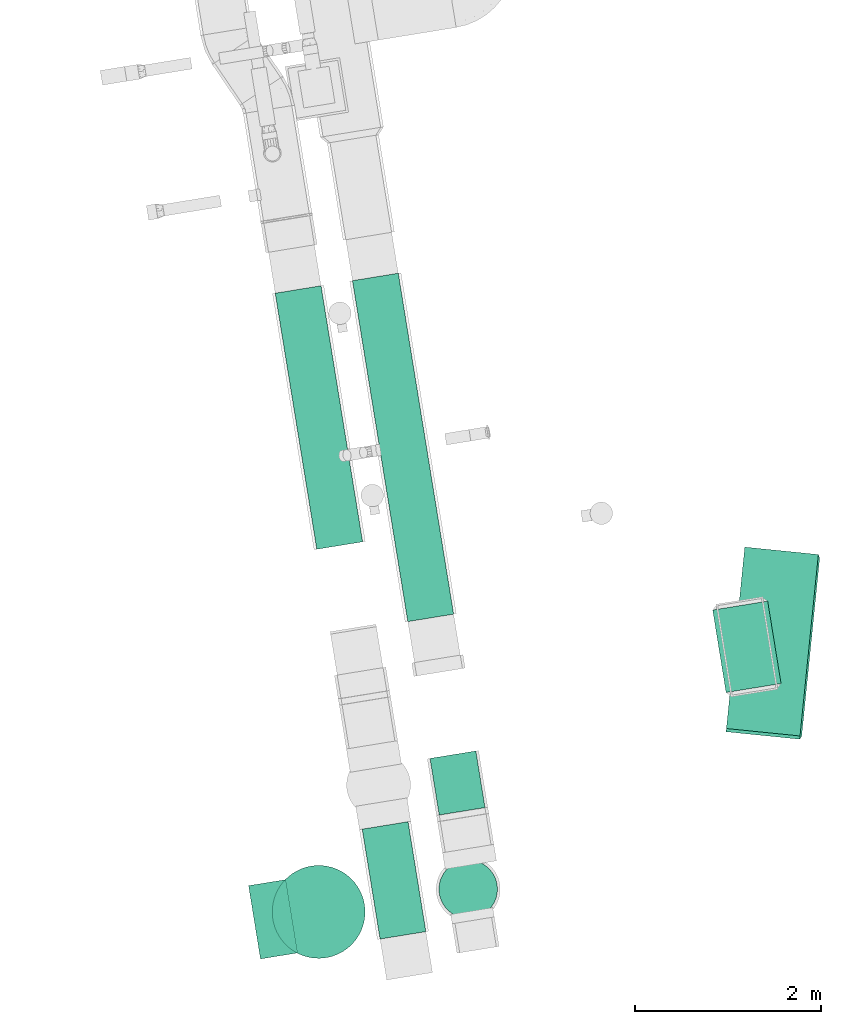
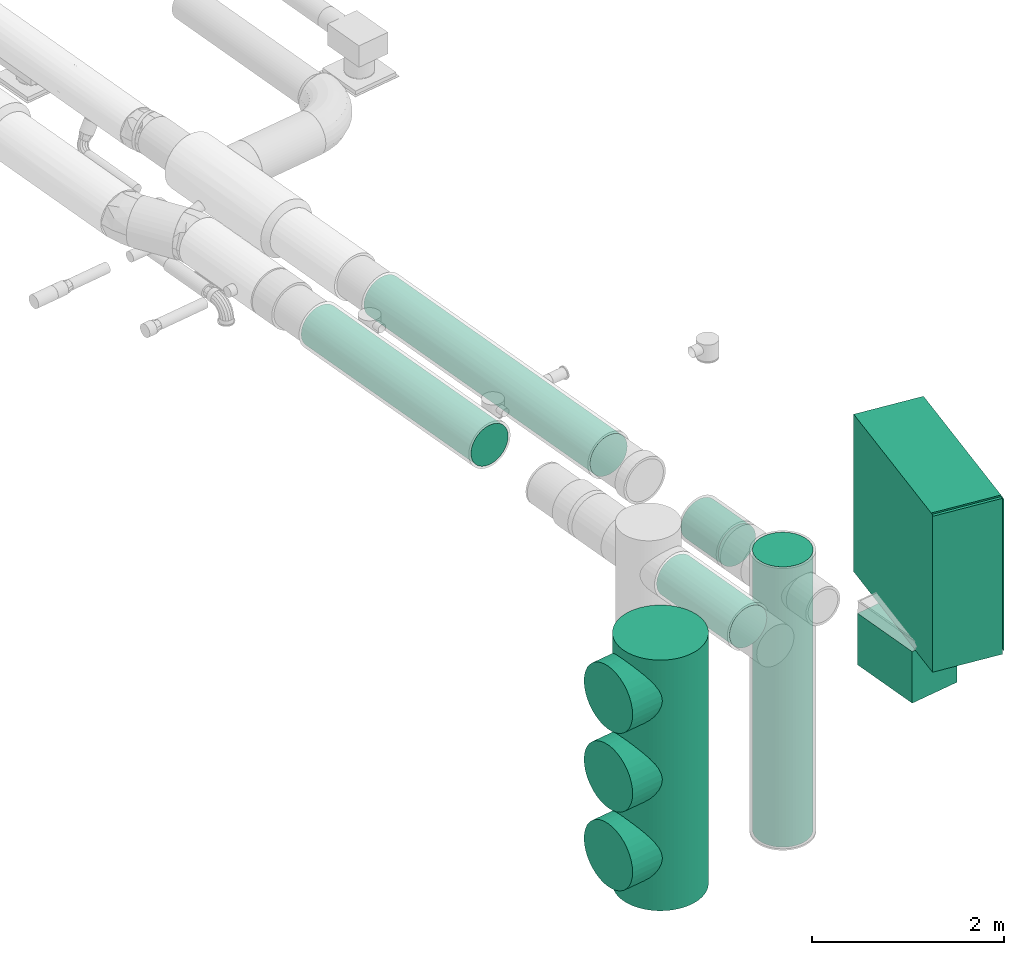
# One storey, part 12 of 39: 7 flow segments, 3 flow fittings, 1 flow terminal.
"""IFC2X3 building model written with IfcOpenShell, lengths in millimetres."""

from ifc_helpers import new_model, entity, si_unit, converted_unit, derived_unit, direction, frame, frame_2d, origin, origin_with_axes, origin_2d_with_axis, place, context, subcontext, project, spatial, polyline, rectangle, circle, outline, extrude, faceted_brep, source, transform, mapped, material, type_object, element, save


model = new_model("IFC2X3")

# Units and contexts
plan_context = context("Plan", 3, precision=1e-05, world=origin_with_axes())
model_context = context("Model", 3, precision=0.01, world=origin(), true_north=direction((6.12323399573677e-17, 1.0)))
body_context = subcontext(model_context, "Body", "Model", "MODEL_VIEW")
ifc_project = project(units=[converted_unit("PLANEANGLEUNIT", "DEGREE", entity("IfcPositiveLengthMeasure", 0.0174532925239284), si_unit("PLANEANGLEUNIT", "RADIAN"), dimensions=[0, 0, 0, 0, 0, 0, 0]), si_unit("AREAUNIT", "SQUARE_METRE"), si_unit("LENGTHUNIT", "METRE", prefix="MILLI"), si_unit("MASSUNIT", "GRAM", prefix="KILO"), si_unit("POWERUNIT", "WATT"), si_unit("PRESSUREUNIT", "PASCAL", prefix="KILO"), si_unit("FORCEUNIT", "NEWTON", prefix="KILO"), si_unit("ELECTRICVOLTAGEUNIT", "VOLT"), si_unit("ELECTRICCURRENTUNIT", "AMPERE"), si_unit("THERMODYNAMICTEMPERATUREUNIT", "DEGREE_CELSIUS"), si_unit("TIMEUNIT", "SECOND"), si_unit("VOLUMEUNIT", "CUBIC_METRE"), derived_unit("LINEARVELOCITYUNIT", [(si_unit("LENGTHUNIT", "METRE"), 1), (si_unit("TIMEUNIT", "SECOND"), -1)]), derived_unit("VOLUMETRICFLOWRATEUNIT", [(si_unit("VOLUMEUNIT", "CUBIC_METRE"), 1), (si_unit("TIMEUNIT", "SECOND"), -1)]), derived_unit("THERMALTRANSMITTANCEUNIT", [(si_unit("POWERUNIT", "WATT"), 1), (si_unit("THERMODYNAMICTEMPERATUREUNIT", "KELVIN"), -1), (si_unit("AREAUNIT", "SQUARE_METRE"), -1)]), derived_unit("SOUNDPRESSUREUNIT", [(si_unit("PRESSUREUNIT", "PASCAL"), 1)])], contexts=[model_context, plan_context])

# Site, building, storey
site_placement = place(None, frame((-0.00071070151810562, 0.00438415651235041, 0.0), z_axis=(0.0, 0.0, 1.0), x_axis=(-0.160236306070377, 0.987078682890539, 0.0)))
site = spatial("IfcSite", under=ifc_project, at=site_placement, Name="Default", CompositionType="ELEMENT")
building_placement = place(site_placement, origin_with_axes())
building = spatial("IfcBuilding", under=site, at=building_placement, CompositionType="ELEMENT")
storey_placement = place(building_placement, frame((0.0, 0.0, 58999.9999999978), z_axis=(0.0, 0.0, 1.0), x_axis=(1.0, 0.0, 0.0)))
storey = spatial("IfcBuildingStorey", under=building, at=storey_placement, Name="Nivå F", CompositionType="ELEMENT", Elevation=58999.9999999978)

# Flow fittings
ifc_material = material(Name="<Unnamed>")
duct_fitting_type_1 = type_object("IfcDuctFittingType", Name="magicirc_tapoutlet_1:magicirc_tapoutlet_001", PredefinedType="NOTDEFINED", material=ifc_material)
shared_shape_1 = source(origin(), body_context, "Body", "Brep", [
    faceted_brep([(-206.099577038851, 136.808057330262, -375.877048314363), (-206.099577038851, 69.4592710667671, -393.923101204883), (-206.099577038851, 0.0, -400.0), (-206.099577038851, -69.4592710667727, -393.923101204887), (-206.099577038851, -136.808057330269, -375.877048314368), (-206.099577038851, -200.0, -346.410161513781), (-206.099577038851, -257.115043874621, -306.417777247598), (-206.099577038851, -306.417777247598, -257.115043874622), (-206.099577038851, -346.410161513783, -200.0), (-206.099577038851, -375.877048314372, -136.808057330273), (-206.099577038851, -393.923101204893, -69.4592710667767), (-206.099577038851, -400.0, 0.0), (-206.099577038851, -393.923101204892, 69.4592710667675), (-206.099577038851, -375.877048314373, 136.808057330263), (-206.099577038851, -346.410161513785, 200.0), (-206.099577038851, -306.417777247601, 257.115043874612), (-206.099577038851, -257.115043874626, 306.417777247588), (-206.099577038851, -200.0, 346.410161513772), (-206.099577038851, -136.808057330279, 375.87704831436), (-206.099577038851, -69.4592710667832, 393.923101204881), (-206.099577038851, 0.0, 400.0), (-206.099577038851, 69.4592710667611, 393.923101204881), (-206.099577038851, 136.808057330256, 375.877048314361), (-206.099577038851, 200.0, 346.410161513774), (-206.099577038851, 257.115043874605, 306.41777724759), (-206.099577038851, 306.41777724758, 257.115043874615), (-206.099577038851, 346.410161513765, 200.0), (-206.099577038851, 375.877048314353, 136.808057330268), (-206.099577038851, 393.923101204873, 69.4592710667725), (-206.099577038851, 400.0, 0.0), (-206.099577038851, 393.923101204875, -69.4592710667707), (-206.099577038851, 375.877048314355, -136.808057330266), (-206.099577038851, 346.410161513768, -200.0), (-206.099577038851, 306.417777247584, -257.115043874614), (-206.099577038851, 257.115043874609, -306.41777724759), (-206.099577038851, 200.0, -346.410161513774), (0.0, 0.0, 400.0), (200.0, 0.0, 400.0), (200.0, 69.4592710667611, 393.923101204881), (0.0, 69.4592710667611, 393.923101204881), (0.0, 136.808057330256, 375.877048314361), (200.0, 136.808057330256, 375.877048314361), (200.0, 200.0, 346.410161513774), (0.0, 200.0, 346.410161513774), (200.0, 257.115043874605, 306.41777724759), (0.0, 257.115043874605, 306.41777724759), (200.0, 306.41777724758, 257.115043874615), (0.0, 306.41777724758, 257.115043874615), (200.0, 346.410161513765, 200.0), (0.0, 346.410161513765, 200.0), (0.0, 375.877048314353, 136.808057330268), (200.0, 375.877048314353, 136.808057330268), (200.0, 393.923101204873, 69.4592710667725), (0.0, 393.923101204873, 69.4592710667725), (200.0, 400.0, 0.0), (0.0, 400.0, 0.0), (200.0, 393.923101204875, -69.4592710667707), (0.0, 393.923101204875, -69.4592710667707), (0.0, 375.877048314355, -136.808057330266), (200.0, 375.877048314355, -136.808057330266), (200.0, 346.410161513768, -200.0), (0.0, 346.410161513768, -200.0), (200.0, 306.417777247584, -257.115043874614), (0.0, 306.417777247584, -257.115043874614), (200.0, 257.115043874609, -306.41777724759), (0.0, 257.11504387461, -306.41777724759), (200.0, 200.0, -346.410161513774), (0.0, 200.0, -346.410161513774), (0.0, 136.808057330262, -375.877048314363), (200.0, 136.808057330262, -375.877048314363), (200.0, 69.4592710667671, -393.923101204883), (0.0, 69.4592710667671, -393.923101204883), (200.0, 0.0, -400.0), (0.0, 0.0, -400.0), (200.0, -69.4592710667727, -393.923101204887), (0.0, -69.4592710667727, -393.923101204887), (0.0, -136.808057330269, -375.877048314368), (200.0, -136.808057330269, -375.877048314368), (200.0, -200.0, -346.410161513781), (0.0, -200.0, -346.410161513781), (200.0, -257.115043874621, -306.417777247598), (0.0, -257.115043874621, -306.417777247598), (200.0, -306.417777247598, -257.115043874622), (0.0, -306.417777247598, -257.115043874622), (200.0, -346.410161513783, -200.0), (0.0, -346.410161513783, -200.0), (0.0, -375.877048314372, -136.808057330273), (200.0, -375.877048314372, -136.808057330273), (200.0, -393.923101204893, -69.4592710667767), (0.0, -393.923101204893, -69.4592710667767), (200.0, -400.0, 0.0), (0.0, -400.0, 0.0), (200.0, -393.923101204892, 69.4592710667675), (0.0, -393.923101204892, 69.4592710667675), (0.0, -375.877048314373, 136.808057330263), (200.0, -375.877048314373, 136.808057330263), (200.0, -346.410161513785, 200.0), (0.0, -346.410161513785, 200.0), (200.0, -306.417777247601, 257.115043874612), (0.0, -306.417777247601, 257.115043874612), (200.0, -257.115043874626, 306.417777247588), (0.0, -257.115043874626, 306.417777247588), (200.0, -200.0, 346.410161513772), (0.0, -200.0, 346.410161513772), (0.0, -136.808057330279, 375.87704831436), (200.0, -136.808057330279, 375.87704831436), (200.0, -69.4592710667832, 393.923101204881), (0.0, -69.4592710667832, 393.923101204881)], [[[0, 1, 2, 3, 4, 5, 6, 7, 8, 9, 10, 11, 12, 13, 14, 15, 16, 17, 18, 19, 20, 21, 22, 23, 24, 25, 26, 27, 28, 29, 30, 31, 32, 33, 34, 35]], [[20, 36, 37, 38, 39, 21]], [[22, 40, 41, 42, 43, 23]], [[39, 38, 41, 40, 22, 21]], [[23, 43, 42, 44, 45, 24]], [[45, 44, 46, 47, 25, 24]], [[25, 47, 46, 48, 49, 26]], [[27, 50, 51, 52, 53, 28]], [[49, 48, 51, 50, 27, 26]], [[28, 53, 52, 54, 55, 29]], [[29, 55, 54, 56, 57, 30]], [[31, 58, 59, 60, 61, 32]], [[57, 56, 59, 58, 31, 30]], [[32, 61, 60, 62, 63, 33]], [[63, 62, 64, 65, 34, 33]], [[34, 65, 64, 66, 67, 35]], [[0, 68, 69, 70, 71, 1]], [[67, 66, 69, 68, 0, 35]], [[1, 71, 70, 72, 73, 2]], [[2, 73, 72, 74, 75, 3]], [[4, 76, 77, 78, 79, 5]], [[75, 74, 77, 76, 4, 3]], [[5, 79, 78, 80, 81, 6]], [[81, 80, 82, 83, 7, 6]], [[7, 83, 82, 84, 85, 8]], [[9, 86, 87, 88, 89, 10]], [[85, 84, 87, 86, 9, 8]], [[10, 89, 88, 90, 91, 11]], [[11, 91, 90, 92, 93, 12]], [[13, 94, 95, 96, 97, 14]], [[93, 92, 95, 94, 13, 12]], [[14, 97, 96, 98, 99, 15]], [[99, 98, 100, 101, 16, 15]], [[16, 101, 100, 102, 103, 17]], [[18, 104, 105, 106, 107, 19]], [[103, 102, 105, 104, 18, 17]], [[19, 107, 106, 37, 36, 20]], [[69, 66, 64, 62, 60, 59, 56, 54, 52, 51, 48, 46, 44, 42, 41, 38, 37, 106, 105, 102, 100, 98, 96, 95, 92, 90, 88, 87, 84, 82, 80, 78, 77, 74, 72, 70]]]),
    faceted_brep([(200.0, 136.808057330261, -375.877048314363), (200.0, 200.0, -346.410161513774), (200.0, 257.115043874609, -306.41777724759), (200.0, 306.417777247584, -257.115043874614), (200.0, 346.410161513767, -200.0), (200.0, 375.877048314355, -136.808057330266), (200.0, 393.923101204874, -69.4592710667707), (200.0, 400.0, 0.0), (200.0, 393.923101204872, 69.4592710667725), (200.0, 375.877048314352, 136.808057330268), (200.0, 346.410161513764, 200.0), (200.0, 306.41777724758, 257.115043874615), (200.0, 257.115043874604, 306.41777724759), (200.0, 200.0, 346.410161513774), (200.0, 136.808057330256, 375.877048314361), (200.0, 69.4592710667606, 393.923101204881), (200.0, 0.0, 400.0), (200.0, -69.4592710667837, 393.923101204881), (200.0, -136.808057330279, 375.87704831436), (200.0, -200.0, 346.410161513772), (200.0, -257.115043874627, 306.417777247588), (200.0, -306.417777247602, 257.115043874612), (200.0, -346.410161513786, 200.0), (200.0, -375.877048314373, 136.808057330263), (200.0, -393.923101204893, 69.4592710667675), (200.0, -400.0, 0.0), (200.0, -393.923101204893, -69.4592710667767), (200.0, -375.877048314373, -136.808057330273), (200.0, -346.410161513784, -200.0), (200.0, -306.417777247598, -257.115043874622), (200.0, -257.115043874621, -306.417777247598), (200.0, -200.0, -346.410161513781), (200.0, -136.80805733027, -375.877048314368), (200.0, -69.4592710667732, -393.923101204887), (200.0, 0.0, -400.0), (200.0, 69.4592710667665, -393.923101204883), (0.0, 0.0, 400.0), (0.0, 69.4592710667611, 393.923101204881), (-206.099577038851, 69.4592710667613, 393.923101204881), (-206.099577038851, 0.0, 400.0), (0.0, 136.808057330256, 375.877048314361), (0.0, 200.0, 346.410161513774), (-206.09957703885, 200.0, 346.410161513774), (-206.099577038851, 136.808057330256, 375.877048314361), (0.0, 257.115043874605, 306.41777724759), (-206.09957703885, 257.115043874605, 306.41777724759), (0.0, 306.41777724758, 257.115043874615), (-206.09957703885, 306.41777724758, 257.115043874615), (0.0, 346.410161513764, 200.0), (-206.09957703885, 346.410161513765, 200.0), (0.0, 375.877048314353, 136.808057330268), (0.0, 393.923101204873, 69.4592710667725), (-206.09957703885, 393.923101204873, 69.4592710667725), (-206.09957703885, 375.877048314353, 136.808057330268), (0.0, 400.0, 0.0), (-206.09957703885, 400.0, 0.0), (0.0, 393.923101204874, -69.4592710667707), (-206.09957703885, 393.923101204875, -69.4592710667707), (0.0, 375.877048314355, -136.808057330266), (0.0, 346.410161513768, -200.0), (-206.09957703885, 346.410161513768, -200.0), (-206.09957703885, 375.877048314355, -136.808057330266), (0.0, 306.417777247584, -257.115043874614), (-206.09957703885, 306.417777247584, -257.115043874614), (0.0, 257.115043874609, -306.41777724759), (-206.09957703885, 257.115043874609, -306.41777724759), (0.0, 200.0, -346.410161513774), (-206.09957703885, 200.0, -346.410161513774), (0.0, 136.808057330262, -375.877048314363), (0.0, 69.459271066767, -393.923101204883), (-206.099577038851, 69.4592710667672, -393.923101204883), (-206.099577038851, 136.808057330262, -375.877048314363), (0.0, 0.0, -400.0), (-206.099577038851, 0.0, -400.0), (0.0, -69.4592710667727, -393.923101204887), (-206.099577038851, -69.4592710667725, -393.923101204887), (0.0, -136.808057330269, -375.877048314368), (0.0, -200.0, -346.410161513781), (-206.099577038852, -200.0, -346.410161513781), (-206.099577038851, -136.808057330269, -375.877048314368), (0.0, -257.115043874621, -306.417777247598), (-206.099577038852, -257.115043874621, -306.417777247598), (0.0, -306.417777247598, -257.115043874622), (-206.099577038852, -306.417777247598, -257.115043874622), (0.0, -346.410161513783, -200.0), (-206.099577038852, -346.410161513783, -200.0), (0.0, -375.877048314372, -136.808057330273), (0.0, -393.923101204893, -69.4592710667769), (-206.099577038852, -393.923101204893, -69.4592710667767), (-206.099577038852, -375.877048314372, -136.808057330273), (0.0, -400.0, 0.0), (-206.099577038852, -400.0, 0.0), (0.0, -393.923101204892, 69.4592710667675), (-206.099577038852, -393.923101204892, 69.4592710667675), (0.0, -375.877048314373, 136.808057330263), (0.0, -346.410161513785, 200.0), (-206.099577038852, -346.410161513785, 200.0), (-206.099577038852, -375.877048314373, 136.808057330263), (0.0, -306.417777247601, 257.115043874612), (-206.099577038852, -306.417777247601, 257.115043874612), (0.0, -257.115043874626, 306.417777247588), (-206.099577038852, -257.115043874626, 306.417777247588), (0.0, -200.0, 346.410161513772), (-206.099577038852, -200.0, 346.410161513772), (0.0, -136.808057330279, 375.87704831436), (0.0, -69.4592710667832, 393.923101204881), (-206.099577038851, -69.459271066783, 393.923101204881), (-206.099577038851, -136.808057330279, 375.87704831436)], [[[0, 1, 2, 3, 4, 5, 6, 7, 8, 9, 10, 11, 12, 13, 14, 15, 16, 17, 18, 19, 20, 21, 22, 23, 24, 25, 26, 27, 28, 29, 30, 31, 32, 33, 34, 35]], [[36, 16, 15, 37, 38, 39]], [[40, 14, 13, 41, 42, 43]], [[15, 14, 40, 43, 38, 37]], [[41, 13, 12, 44, 45, 42]], [[12, 11, 46, 47, 45, 44]], [[46, 11, 10, 48, 49, 47]], [[50, 9, 8, 51, 52, 53]], [[10, 9, 50, 53, 49, 48]], [[51, 8, 7, 54, 55, 52]], [[54, 7, 6, 56, 57, 55]], [[58, 5, 4, 59, 60, 61]], [[6, 5, 58, 61, 57, 56]], [[59, 4, 3, 62, 63, 60]], [[3, 2, 64, 65, 63, 62]], [[64, 2, 1, 66, 67, 65]], [[68, 0, 35, 69, 70, 71]], [[1, 0, 68, 71, 67, 66]], [[69, 35, 34, 72, 73, 70]], [[72, 34, 33, 74, 75, 73]], [[76, 32, 31, 77, 78, 79]], [[33, 32, 76, 79, 75, 74]], [[77, 31, 30, 80, 81, 78]], [[30, 29, 82, 83, 81, 80]], [[82, 29, 28, 84, 85, 83]], [[86, 27, 26, 87, 88, 89]], [[28, 27, 86, 89, 85, 84]], [[87, 26, 25, 90, 91, 88]], [[90, 25, 24, 92, 93, 91]], [[94, 23, 22, 95, 96, 97]], [[24, 23, 94, 97, 93, 92]], [[95, 22, 21, 98, 99, 96]], [[21, 20, 100, 101, 99, 98]], [[100, 20, 19, 102, 103, 101]], [[104, 18, 17, 105, 106, 107]], [[19, 18, 104, 107, 103, 102]], [[105, 17, 16, 36, 39, 106]], [[71, 70, 73, 75, 79, 78, 81, 83, 85, 89, 88, 91, 93, 97, 96, 99, 101, 103, 107, 106, 39, 38, 43, 42, 45, 47, 49, 53, 52, 55, 57, 61, 60, 63, 65, 67]]]),
    faceted_brep([(-206.099577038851, 136.808057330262, -375.877048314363), (-206.099577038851, 69.4592710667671, -393.923101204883), (-206.099577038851, 0.0, -400.0), (-206.099577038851, -69.4592710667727, -393.923101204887), (-206.099577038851, -136.808057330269, -375.877048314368), (-206.099577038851, -200.0, -346.410161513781), (-206.099577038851, -257.115043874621, -306.417777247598), (-206.099577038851, -306.417777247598, -257.115043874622), (-206.099577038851, -346.410161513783, -200.0), (-206.099577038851, -375.877048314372, -136.808057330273), (-206.099577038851, -393.923101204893, -69.4592710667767), (-206.099577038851, -400.0, 0.0), (-206.099577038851, -393.923101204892, 69.4592710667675), (-206.099577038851, -375.877048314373, 136.808057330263), (-206.099577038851, -346.410161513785, 200.0), (-206.099577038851, -306.417777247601, 257.115043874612), (-206.099577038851, -257.115043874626, 306.417777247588), (-206.099577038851, -200.0, 346.410161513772), (-206.099577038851, -136.808057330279, 375.87704831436), (-206.099577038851, -69.4592710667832, 393.923101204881), (-206.099577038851, 0.0, 400.0), (-206.099577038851, 69.4592710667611, 393.923101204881), (-206.099577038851, 136.808057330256, 375.877048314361), (-206.099577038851, 200.0, 346.410161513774), (-206.099577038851, 257.115043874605, 306.41777724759), (-206.099577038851, 306.41777724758, 257.115043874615), (-206.099577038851, 346.410161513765, 200.0), (-206.099577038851, 375.877048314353, 136.808057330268), (-206.099577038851, 393.923101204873, 69.4592710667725), (-206.099577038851, 400.0, 0.0), (-206.099577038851, 393.923101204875, -69.4592710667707), (-206.099577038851, 375.877048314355, -136.808057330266), (-206.099577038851, 346.410161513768, -200.0), (-206.099577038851, 306.417777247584, -257.115043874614), (-206.099577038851, 257.115043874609, -306.41777724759), (-206.099577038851, 200.0, -346.410161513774), (0.0, 0.0, 400.0), (200.0, 0.0, 400.0), (200.0, 69.4592710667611, 393.923101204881), (0.0, 69.4592710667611, 393.923101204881), (0.0, 136.808057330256, 375.877048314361), (200.0, 136.808057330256, 375.877048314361), (200.0, 200.0, 346.410161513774), (0.0, 200.0, 346.410161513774), (200.0, 257.115043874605, 306.41777724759), (0.0, 257.115043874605, 306.41777724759), (200.0, 306.41777724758, 257.115043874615), (0.0, 306.41777724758, 257.115043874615), (200.0, 346.410161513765, 200.0), (0.0, 346.410161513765, 200.0), (0.0, 375.877048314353, 136.808057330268), (200.0, 375.877048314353, 136.808057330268), (200.0, 393.923101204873, 69.4592710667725), (0.0, 393.923101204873, 69.4592710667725), (200.0, 400.0, 0.0), (0.0, 400.0, 0.0), (200.0, 393.923101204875, -69.4592710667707), (0.0, 393.923101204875, -69.4592710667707), (0.0, 375.877048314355, -136.808057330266), (200.0, 375.877048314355, -136.808057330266), (200.0, 346.410161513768, -200.0), (0.0, 346.410161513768, -200.0), (200.0, 306.417777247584, -257.115043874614), (0.0, 306.417777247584, -257.115043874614), (200.0, 257.115043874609, -306.41777724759), (0.0, 257.11504387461, -306.41777724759), (200.0, 200.0, -346.410161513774), (0.0, 200.0, -346.410161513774), (0.0, 136.808057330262, -375.877048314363), (200.0, 136.808057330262, -375.877048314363), (200.0, 69.4592710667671, -393.923101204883), (0.0, 69.4592710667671, -393.923101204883), (200.0, 0.0, -400.0), (0.0, 0.0, -400.0), (200.0, -69.4592710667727, -393.923101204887), (0.0, -69.4592710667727, -393.923101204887), (0.0, -136.808057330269, -375.877048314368), (200.0, -136.808057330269, -375.877048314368), (200.0, -200.0, -346.410161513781), (0.0, -200.0, -346.410161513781), (200.0, -257.115043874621, -306.417777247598), (0.0, -257.115043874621, -306.417777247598), (200.0, -306.417777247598, -257.115043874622), (0.0, -306.417777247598, -257.115043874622), (200.0, -346.410161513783, -200.0), (0.0, -346.410161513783, -200.0), (0.0, -375.877048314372, -136.808057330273), (200.0, -375.877048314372, -136.808057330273), (200.0, -393.923101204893, -69.4592710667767), (0.0, -393.923101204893, -69.4592710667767), (200.0, -400.0, 0.0), (0.0, -400.0, 0.0), (200.0, -393.923101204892, 69.4592710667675), (0.0, -393.923101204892, 69.4592710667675), (0.0, -375.877048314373, 136.808057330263), (200.0, -375.877048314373, 136.808057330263), (200.0, -346.410161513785, 200.0), (0.0, -346.410161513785, 200.0), (200.0, -306.417777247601, 257.115043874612), (0.0, -306.417777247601, 257.115043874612), (200.0, -257.115043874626, 306.417777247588), (0.0, -257.115043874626, 306.417777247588), (200.0, -200.0, 346.410161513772), (0.0, -200.0, 346.410161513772), (0.0, -136.808057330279, 375.87704831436), (200.0, -136.808057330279, 375.87704831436), (200.0, -69.4592710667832, 393.923101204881), (0.0, -69.4592710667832, 393.923101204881)], [[[0, 1, 2, 3, 4, 5, 6, 7, 8, 9, 10, 11, 12, 13, 14, 15, 16, 17, 18, 19, 20, 21, 22, 23, 24, 25, 26, 27, 28, 29, 30, 31, 32, 33, 34, 35]], [[20, 36, 37, 38, 39, 21]], [[22, 40, 41, 42, 43, 23]], [[39, 38, 41, 40, 22, 21]], [[23, 43, 42, 44, 45, 24]], [[45, 44, 46, 47, 25, 24]], [[25, 47, 46, 48, 49, 26]], [[27, 50, 51, 52, 53, 28]], [[49, 48, 51, 50, 27, 26]], [[28, 53, 52, 54, 55, 29]], [[29, 55, 54, 56, 57, 30]], [[31, 58, 59, 60, 61, 32]], [[57, 56, 59, 58, 31, 30]], [[32, 61, 60, 62, 63, 33]], [[63, 62, 64, 65, 34, 33]], [[34, 65, 64, 66, 67, 35]], [[0, 68, 69, 70, 71, 1]], [[67, 66, 69, 68, 0, 35]], [[1, 71, 70, 72, 73, 2]], [[2, 73, 72, 74, 75, 3]], [[4, 76, 77, 78, 79, 5]], [[75, 74, 77, 76, 4, 3]], [[5, 79, 78, 80, 81, 6]], [[81, 80, 82, 83, 7, 6]], [[7, 83, 82, 84, 85, 8]], [[9, 86, 87, 88, 89, 10]], [[85, 84, 87, 86, 9, 8]], [[10, 89, 88, 90, 91, 11]], [[11, 91, 90, 92, 93, 12]], [[13, 94, 95, 96, 97, 14]], [[93, 92, 95, 94, 13, 12]], [[14, 97, 96, 98, 99, 15]], [[99, 98, 100, 101, 16, 15]], [[16, 101, 100, 102, 103, 17]], [[18, 104, 105, 106, 107, 19]], [[103, 102, 105, 104, 18, 17]], [[19, 107, 106, 37, 36, 20]], [[69, 66, 64, 62, 60, 59, 56, 54, 52, 51, 48, 46, 44, 42, 41, 38, 37, 106, 105, 102, 100, 98, 96, 95, 92, 90, 88, 87, 84, 82, 80, 78, 77, 74, 72, 70]]]),
])
flow_fitting_1_placement = place(storey_placement, frame((763887.597162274, -501140.723661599, 2700.0), z_axis=(1.0, 0.0, 0.0), x_axis=(0.0, 1.0, 0.0)))
element("IfcFlowFitting", 1, at=flow_fitting_1_placement, inside=storey, type_object=duct_fitting_type_1, material=ifc_material, Name="magicirc_tapoutlet_1:magicirc_tapoutlet_001", ObjectType="magicirc_tapoutlet_1:magicirc_tapoutlet_001", context=body_context, shape_type="MappedRepresentation", body=[
    mapped(shared_shape_1, transform((0.0, 0.0, 0.0), scale=1.0)),
])
duct_fitting_type_2 = type_object("IfcDuctFittingType", Name="magicirc_tapoutlet_1:magicirc_tapoutlet_001", PredefinedType="NOTDEFINED", material=ifc_material)
flow_fitting_2_placement = place(storey_placement, frame((763887.597162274, -501140.725111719, 1700.0), z_axis=(1.0, 0.0, 0.0), x_axis=(0.0, 1.0, 0.0)))
element("IfcFlowFitting", 2, at=flow_fitting_2_placement, inside=storey, type_object=duct_fitting_type_2, material=ifc_material, Name="magicirc_tapoutlet_1:magicirc_tapoutlet_001", ObjectType="magicirc_tapoutlet_1:magicirc_tapoutlet_001", context=body_context, shape_type="MappedRepresentation", body=[
    mapped(shared_shape_1, transform((0.0, 0.0, 0.0), scale=1.0)),
])
duct_fitting_type_3 = type_object("IfcDuctFittingType", Name="magicirc_tapoutlet_1:magicirc_tapoutlet_001", PredefinedType="NOTDEFINED", material=ifc_material)
flow_fitting_3_placement = place(storey_placement, frame((763887.597162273, -501140.726562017, 700.0), z_axis=(1.0, 0.0, 0.0), x_axis=(0.0, 1.0, 0.0)))
element("IfcFlowFitting", 3, at=flow_fitting_3_placement, inside=storey, type_object=duct_fitting_type_3, material=ifc_material, Name="magicirc_tapoutlet_1:magicirc_tapoutlet_001", ObjectType="magicirc_tapoutlet_1:magicirc_tapoutlet_001", context=body_context, shape_type="MappedRepresentation", body=[
    mapped(shared_shape_1, transform((0.0, 0.0, 0.0), scale=1.0)),
])

# Flow terminal
air_terminal_type = type_object("IfcAirTerminalType", Name="QLF-0002:TILLUFTSVENTIL - ST907T - ST907T", PredefinedType="NOTDEFINED", material=ifc_material)
shared_shape_2 = source(origin(), body_context, "Body", "SweptSolid", [
    extrude(outline(polyline([(624.351983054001, -736.089333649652), (677.193727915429, -736.089333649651), (-647.534412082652, 762.310984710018), (-654.011298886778, 709.867682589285), (624.351983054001, -736.089333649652)])), frame((1001.79224600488, -395.826818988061, 1000.01351977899), z_axis=(-0.467307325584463, 0.884094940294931, 0.0), x_axis=(0.662355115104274, 0.350101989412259, 0.662355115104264)), (0.0, 0.0, 1.0), 0.20000000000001),
    extrude(outline(polyline([(-964.822386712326, -19.7942542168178), (964.822386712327, -19.7942542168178), (999.822386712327, 19.7942542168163), (-999.822386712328, 19.7942542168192), (-964.822386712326, -19.7942542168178)])), frame((-963.301215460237, -395.850000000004, 1000.08415318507), z_axis=(0.467307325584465, 0.88409494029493, 0.0), x_axis=(0.0, 0.0, -1.0)), (0.0, 0.0, 1.0), 0.20000000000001),
    extrude(outline(polyline([(-1000.10709000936, -19.7942542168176), (1000.10709000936, -19.7942542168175), (965.107090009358, 19.7942542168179), (-965.107090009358, 19.7942542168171), (-1000.10709000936, -19.7942542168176)])), frame((19.0551686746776, -395.826818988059, 17.4532692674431), z_axis=(0.0, 0.88409494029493, 0.467307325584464), x_axis=(-1.0, 0.0, 0.0)), (0.0, 0.0, 1.0), 0.20000000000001),
    extrude(outline(polyline([(-677.048817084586, -735.925424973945), (-624.20707222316, -735.925424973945), (653.866388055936, 709.703773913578), (647.38950125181, 762.147076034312), (-677.048817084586, -735.925424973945)])), frame((19.1945274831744, -395.727597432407, 1982.3), z_axis=(0.0, 0.88409494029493, -0.467307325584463), x_axis=(-0.662355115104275, -0.350101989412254, -0.662355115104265)), (0.0, 0.0, 1.0), 0.20000000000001),
    extrude(rectangle(XDim=0.199999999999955, YDim=2000.09346146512, at=origin_2d_with_axis()), frame((19.2455152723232, -405.0, 35.0467307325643), z_axis=(0.0, 0.0, 1.0), x_axis=(0.0, 1.0, 0.0)), (0.0, 0.0, 1.0), 1929.75326926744),
    extrude(rectangle(XDim=0.199999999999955, YDim=1999.90653853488, at=origin_2d_with_axis()), frame((19.2455152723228, -386.499999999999, -0.100000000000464), z_axis=(0.0, 0.0, 1.0), x_axis=(0.0, 1.0, 0.0)), (0.0, 0.0, 1.0), 2000.1),
    extrude(rectangle(XDim=0.199999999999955, YDim=1999.90653853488, at=frame_2d((3.38409855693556e-14, 0.0), x_axis=(1.0, 0.0))), frame((19.2455152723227, 410.0, 0.0), z_axis=(0.0, 0.0, 1.0), x_axis=(0.0, 1.0, 0.0)), (0.0, 0.0, 1.0), 2000.0),
    extrude(rectangle(XDim=35.093461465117, YDim=796.4, at=frame_2d((1.35003119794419e-13, 0.0), x_axis=(1.0, 0.0))), frame((1001.74551527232, 11.8000000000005, 0.0)), (0.0, 0.0, 1.0), 2000.0),
    extrude(rectangle(XDim=34.9999999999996, YDim=796.299999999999, at=origin_2d_with_axis()), frame((-963.207753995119, 11.7500000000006, 0.0)), (0.0, 0.0, 1.0), 1980.0),
    extrude(rectangle(XDim=796.399999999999, YDim=2000.0, at=frame_2d((5.6843418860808e-14, 5.6843418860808e-14), x_axis=(1.0, 0.0))), frame((19.2922460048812, 11.8000000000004, -0.100000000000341), z_axis=(0.0, 0.0, 1.0), x_axis=(0.0, -1.0, 0.0)), (0.0, 0.0, 1.0), 0.2),
    extrude(rectangle(XDim=796.4, YDim=1965.0, at=frame_2d((5.6843418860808e-14, 1.13686837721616e-13), x_axis=(1.0, 0.0))), frame((36.7922460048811, 11.8000000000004, 2000.0), z_axis=(0.0, 0.0, 1.0), x_axis=(0.0, -1.0, 0.0)), (0.0, 0.0, 1.0), 0.199999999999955),
])
flow_terminal_placement = place(storey_placement, frame((765941.10266707, -506934.651427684, 0.0), z_axis=(0.0, 0.0, 1.0), x_axis=(0.965925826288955, -0.258819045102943, 0.0)))
element("IfcFlowTerminal", 4, at=flow_terminal_placement, inside=storey, type_object=air_terminal_type, material=ifc_material, Name="QLF-0002:TILLUFTSVENTIL - ST907T - ST907T", ObjectType="QLF-0002:TILLUFTSVENTIL - ST907T - ST907T", context=body_context, shape_type="MappedRepresentation", body=[
    mapped(shared_shape_2, transform((0.0, 0.0, 0.0), scale=1.0)),
])

# Flow segments
duct_segment_type_1 = type_object("IfcDuctSegmentType", Name="Round Duct:KK001T - Spiro kanaler, Forsinket stål", PredefinedType="NOTDEFINED")
flow_segment_1_placement = place(storey_placement, origin_with_axes())
element("IfcFlowSegment", 5, at=flow_segment_1_placement, inside=storey, type_object=duct_segment_type_1, Name="Round Duct:KK001T - Spiro kanaler, Forsinket stål", ObjectType="Round Duct:KK001T - Spiro kanaler, Forsinket stål", context=body_context, shape_type="SweptSolid", body=[
    extrude(circle(Radius=250.0, at=frame_2d((0.0, 8.66293703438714e-12), x_axis=(1.0, 0.0))), frame((767747.619644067, -502496.834705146, 3130.0), z_axis=(1.0, 0.0, 0.0), x_axis=(0.0, -1.0, 0.0)), (0.0, 0.0, 1.0), 2794.74999999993),
])
flow_segment_2_placement = place(storey_placement, origin_with_axes())
element("IfcFlowSegment", 6, at=flow_segment_2_placement, inside=storey, type_object=duct_segment_type_1, Name="Round Duct:KK001T - Spiro kanaler, Forsinket stål", ObjectType="Round Duct:KK001T - Spiro kanaler, Forsinket stål", context=body_context, shape_type="SweptSolid", body=[
    extrude(circle(Radius=250.0, at=frame_2d((0.0, 8.66293703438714e-12), x_axis=(1.0, 0.0))), frame((766821.119644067, -503340.008615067, 3129.99954147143), z_axis=(1.0, 0.0, 0.0), x_axis=(0.0, -1.0, 0.0)), (0.0, 0.0, 1.0), 3721.2499999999),
])
flow_segment_3_placement = place(storey_placement, origin_with_axes())
element("IfcFlowSegment", 7, at=flow_segment_3_placement, inside=storey, type_object=duct_segment_type_1, Name="Round Duct:KK001T - Spiro kanaler, Forsinket stål", ObjectType="Round Duct:KK001T - Spiro kanaler, Forsinket stål", context=body_context, shape_type="SweptSolid", body=[
    extrude(circle(Radius=250.0, at=origin_2d_with_axis()), frame((763492.869644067, -502496.834705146, 3130.0), z_axis=(1.0, 0.0, 0.0), x_axis=(0.0, -1.0, 0.0)), (0.0, 0.0, 1.0), 1199.72077922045),
])
flow_segment_4_placement = place(storey_placement, origin_with_axes())
element("IfcFlowSegment", 8, at=flow_segment_4_placement, inside=storey, type_object=duct_segment_type_1, Name="Round Duct:KK001T - Spiro kanaler, Forsinket stål", ObjectType="Round Duct:KK001T - Spiro kanaler, Forsinket stål", context=body_context, shape_type="SweptSolid", body=[
    extrude(circle(Radius=315.0, at=origin_2d_with_axis()), frame((763870.86087582, -503270.00861507, 2.20038600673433e-09), z_axis=(0.0, 0.0, 1.0), x_axis=(-1.0, 0.0, 0.0)), (0.0, 0.0, 1.0), 3559.9999999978),
])
flow_segment_5_placement = place(storey_placement, origin_with_axes())
element("IfcFlowSegment", 9, at=flow_segment_5_placement, inside=storey, type_object=duct_segment_type_1, Name="Round Duct:KK001T - Spiro kanaler, Forsinket stål", ObjectType="Round Duct:KK001T - Spiro kanaler, Forsinket stål", context=body_context, shape_type="SweptSolid", body=[
    extrude(circle(Radius=500.0, at=frame_2d((0.0, 6.93034962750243e-11), x_axis=(1.0, 0.0))), frame((763887.619596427, -501640.727527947, 33.698958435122)), (0.0, 0.0, 1.0), 3183.92003739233),
])
flow_segment_6_placement = place(storey_placement, origin_with_axes())
element("IfcFlowSegment", 10, at=flow_segment_6_placement, inside=storey, type_object=duct_segment_type_1, Name="Round Duct:KK001T - Spiro kanaler, Forsinket stål", ObjectType="Round Duct:KK001T - Spiro kanaler, Forsinket stål", context=body_context, shape_type="SweptSolid", body=[
    extrude(circle(Radius=250.0, at=frame_2d((0.0, -8.66293703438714e-12), x_axis=(1.0, 0.0))), frame((764710.090423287, -503340.008615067, 3129.99954147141), z_axis=(1.0, 0.0, 0.0), x_axis=(0.0, -1.0, 0.0)), (0.0, 0.0, 1.0), 617.529220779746),
])
duct_segment_type_2 = type_object("IfcDuctSegmentType", Name="Rectangular Duct:KK002T - Rektangulære, Forsinket stål", PredefinedType="NOTDEFINED")
flow_segment_7_placement = place(storey_placement, origin_with_axes())
element("IfcFlowSegment", 11, at=flow_segment_7_placement, inside=storey, type_object=duct_segment_type_2, Name="Rectangular Duct:KK002T - Rektangulære, Forsinket stål", ObjectType="Rectangular Duct:KK002T - Rektangulære, Forsinket stål", context=body_context, shape_type="SweptSolid", body=[
    extrude(rectangle(XDim=600.000000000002, YDim=900.000000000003, at=origin_2d_with_axis()), frame((765967.619644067, -506652.480498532, -650.0), z_axis=(0.0, 0.0, 1.0), x_axis=(0.0, 1.0, 0.0)), (0.0, 0.0, 1.0), 655.000000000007),
])

save(model, "model.ifc")
